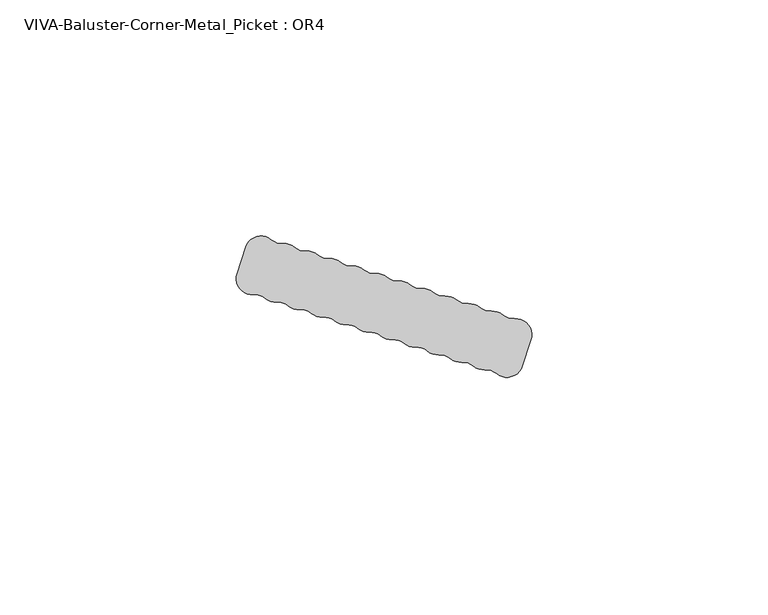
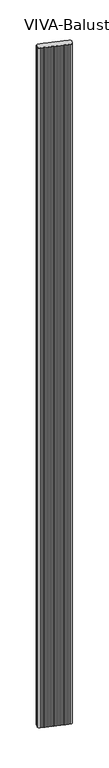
"""IFC4 building model written with IfcOpenShell, lengths in millimetres: railing geometry, VIVA-Baluster-Corner-Metal_Picket : OR4."""

from ifc_helpers import new_model, si_unit, frame, origin, place, context, project, spatial, polyline, circle_curve, source, transform, mapped, element, save
from ifc_brep_helpers import plane_surface, cylinder_surface, revolved_surface, advanced_brep


def viva_baluster_corner_metal_picket_or4_cd2baefe(model_context):
    return source(origin(), model_context, "Body", "AdvancedBrep", [
        advanced_brep(
        [(54.1877137, 58.5610945, 1219.2), (55.9877943, 64.1011728, 1219.2), (52.4796392, 68.5924811, 1219.2), (50.0317415, 69.3878513, 1219.2), (47.5838438, 70.1832215, 1219.2), (45.1359461, 70.9785917, 1219.2), (42.6880484, 71.7739618, 1219.2), (40.2401507, 72.569332, 1219.2), (37.792253, 73.3647022, 1219.2), (35.3443553, 74.1600724, 1219.2), (32.8964576, 74.9554425, 1219.2), (30.4485599, 75.7508127, 1219.2), (28.0006622, 76.5461829, 1219.2), (25.5527645, 77.3415531, 1219.2), (23.1048668, 78.1369232, 1219.2), (20.6569691, 78.9322934, 1219.2), (18.2090714, 79.7276636, 1219.2), (15.7611737, 80.5230338, 1219.2), (13.313276, 81.318404, 1219.2), (10.8653783, 82.1137741, 1219.2), (8.4174806, 82.9091443, 1219.2), (5.9695829, 83.7045145, 1219.2), (3.5216852, 84.4998847, 1219.2), (1.0737875, 85.2952548, 1219.2), (-4.4042945, 83.723752, 1219.2), (-6.204375, 78.1836736, 1219.2), (-2.6962199, 73.6923653, 1219.2), (-0.2483222, 72.8969952, 1219.2), (2.1995755, 72.101625, 1219.2), (4.6474732, 71.3062548, 1219.2), (7.0953709, 70.5108846, 1219.2), (9.5432686, 69.7155145, 1219.2), (11.9911663, 68.9201443, 1219.2), (14.439064, 68.1247741, 1219.2), (16.8869617, 67.3294039, 1219.2), (19.3348594, 66.5340337, 1219.2), (21.7827571, 65.7386636, 1219.2), (24.2306548, 64.9432934, 1219.2), (26.6785525, 64.1479232, 1219.2), (29.1264502, 63.352553, 1219.2), (31.5743479, 62.5571829, 1219.2), (34.0222456, 61.7618127, 1219.2), (36.4701433, 60.9664425, 1219.2), (38.918041, 60.1710723, 1219.2), (41.3659387, 59.3757022, 1219.2), (43.8138364, 58.580332, 1219.2), (46.2617341, 57.7849618, 1219.2), (48.7096318, 56.9895916, 1219.2), (54.1877137, 58.5610945, -245.8945017), (48.7096318, 56.9895916, -245.8945017), (46.2617341, 57.7849618, -245.8945017), (43.8138364, 58.580332, -245.8945017), (41.3659387, 59.3757022, -245.8945017), (38.918041, 60.1710723, -245.8945017), (36.4701433, 60.9664425, -245.8945017), (34.0222456, 61.7618127, -245.8945017), (31.5743479, 62.5571829, -245.8945017), (29.1264502, 63.352553, -245.8945017), (26.6785525, 64.1479232, -245.8945017), (24.2306548, 64.9432934, -245.8945017), (21.7827571, 65.7386636, -245.8945017), (19.3348594, 66.5340337, -245.8945017), (16.8869617, 67.3294039, -245.8945017), (14.439064, 68.1247741, -245.8945017), (11.9911663, 68.9201443, -245.8945017), (9.5432686, 69.7155145, -245.8945017), (7.0953709, 70.5108846, -245.8945017), (4.6474732, 71.3062548, -245.8945017), (2.1995755, 72.101625, -245.8945017), (-0.2483222, 72.8969952, -245.8945017), (-2.6962199, 73.6923653, -245.8945017), (-6.204375, 78.1836736, -245.8945017), (-4.4042945, 83.723752, -245.8945017), (1.0737875, 85.2952548, -245.8945017), (3.5216852, 84.4998847, -245.8945017), (5.9695829, 83.7045145, -245.8945017), (8.4174806, 82.9091443, -245.8945017), (10.8653783, 82.1137741, -245.8945017), (13.313276, 81.318404, -245.8945017), (15.7611737, 80.5230338, -245.8945017), (18.2090714, 79.7276636, -245.8945017), (20.6569691, 78.9322934, -245.8945017), (23.1048668, 78.1369232, -245.8945017), (25.5527645, 77.3415531, -245.8945017), (28.0006622, 76.5461829, -245.8945017), (30.4485599, 75.7508127, -245.8945017), (32.8964576, 74.9554425, -245.8945017), (35.3443553, 74.1600724, -245.8945017), (37.792253, 73.3647022, -245.8945017), (40.2401507, 72.569332, -245.8945017), (42.6880484, 71.7739618, -245.8945017), (45.1359461, 70.9785917, -245.8945017), (47.5838438, 70.1832215, -245.8945017), (50.0317415, 69.3878513, -245.8945017), (52.4796392, 68.5924811, -245.8945017), (55.9877943, 64.1011728, -245.8945017)],
        [
            (0, 1),
            (1, 2, circle_curve(frame((52.7186246, 65.1633905, 1219.2), z_axis=(0.0, 0.0, 1.0), x_axis=(1.0, 0.0, 0.0)), 3.4374084)),
            (2, 3, circle_curve(frame((52.2406537, 72.0215718, 1219.2), z_axis=(0.0, 0.0, -1.0), x_axis=(1.0, 0.0, 0.0)), 3.4374084)),
            (3, 4, circle_curve(frame((47.8228292, 66.7541308, 1219.2), z_axis=(0.0, 0.0, 1.0), x_axis=(1.0, 0.0, 0.0)), 3.4374084)),
            (4, 5, circle_curve(frame((47.3448583, 73.6123121, 1219.2), z_axis=(0.0, 0.0, -1.0), x_axis=(1.0, 0.0, 0.0)), 3.4374084)),
            (5, 6, circle_curve(frame((42.9270338, 68.3448712, 1219.2), z_axis=(0.0, 0.0, 1.0), x_axis=(1.0, 0.0, 0.0)), 3.4374084)),
            (6, 7, circle_curve(frame((42.4490629, 75.2030525, 1219.2), z_axis=(0.0, 0.0, -1.0), x_axis=(1.0, 0.0, 0.0)), 3.4374084)),
            (7, 8, circle_curve(frame((38.0312384, 69.9356115, 1219.2), z_axis=(0.0, 0.0, 1.0), x_axis=(1.0, 0.0, 0.0)), 3.4374084)),
            (8, 9, circle_curve(frame((37.5532675, 76.7937928, 1219.2), z_axis=(0.0, 0.0, -1.0), x_axis=(1.0, 0.0, 0.0)), 3.4374084)),
            (9, 10, circle_curve(frame((33.135443, 71.5263519, 1219.2), z_axis=(0.0, 0.0, 1.0), x_axis=(1.0, 0.0, 0.0)), 3.4374084)),
            (10, 11, circle_curve(frame((32.6574721, 78.3845332, 1219.2), z_axis=(0.0, 0.0, -1.0), x_axis=(1.0, 0.0, 0.0)), 3.4374084)),
            (11, 12, circle_curve(frame((28.2396476, 73.1170922, 1219.2), z_axis=(0.0, 0.0, 1.0), x_axis=(1.0, 0.0, 0.0)), 3.4374084)),
            (12, 13, circle_curve(frame((27.7616767, 79.9752735, 1219.2), z_axis=(0.0, 0.0, -1.0), x_axis=(1.0, 0.0, 0.0)), 3.4374084)),
            (13, 14, circle_curve(frame((23.3438522, 74.7078326, 1219.2), z_axis=(0.0, 0.0, 1.0), x_axis=(1.0, 0.0, 0.0)), 3.4374084)),
            (14, 15, circle_curve(frame((22.8658813, 81.5660139, 1219.2), z_axis=(0.0, 0.0, -1.0), x_axis=(1.0, 0.0, 0.0)), 3.4374084)),
            (15, 16, circle_curve(frame((18.4480568, 76.2985729, 1219.2), z_axis=(0.0, 0.0, 1.0), x_axis=(1.0, 0.0, 0.0)), 3.4374084)),
            (16, 17, circle_curve(frame((17.9700859, 83.1567542, 1219.2), z_axis=(0.0, 0.0, -1.0), x_axis=(1.0, 0.0, 0.0)), 3.4374084)),
            (17, 18, circle_curve(frame((13.5522614, 77.8893133, 1219.2), z_axis=(0.0, 0.0, 1.0), x_axis=(1.0, 0.0, 0.0)), 3.4374084)),
            (18, 19, circle_curve(frame((13.0742905, 84.7474946, 1219.2), z_axis=(0.0, 0.0, -1.0), x_axis=(1.0, 0.0, 0.0)), 3.4374084)),
            (19, 20, circle_curve(frame((8.656466, 79.4800537, 1219.2), z_axis=(0.0, 0.0, 1.0), x_axis=(1.0, 0.0, 0.0)), 3.4374084)),
            (20, 21, circle_curve(frame((8.1784951, 86.338235, 1219.2), z_axis=(0.0, 0.0, -1.0), x_axis=(1.0, 0.0, 0.0)), 3.4374084)),
            (21, 22, circle_curve(frame((3.7606706, 81.070794, 1219.2), z_axis=(0.0, 0.0, 1.0), x_axis=(1.0, 0.0, 0.0)), 3.4374084)),
            (22, 23, circle_curve(frame((3.2826997, 87.9289753, 1219.2), z_axis=(0.0, 0.0, -1.0), x_axis=(1.0, 0.0, 0.0)), 3.4374084)),
            (23, 24, circle_curve(frame((-1.1351248, 82.6615344, 1219.2), z_axis=(0.0, 0.0, 1.0), x_axis=(1.0, 0.0, 0.0)), 3.4374084)),
            (24, 25),
            (25, 26, circle_curve(frame((-2.9352053, 77.121456, 1219.2), z_axis=(0.0, 0.0, 1.0), x_axis=(1.0, 0.0, 0.0)), 3.4374084)),
            (26, 27, circle_curve(frame((-2.4572344, 70.2632747, 1219.2), z_axis=(0.0, 0.0, -1.0), x_axis=(1.0, 0.0, 0.0)), 3.4374084)),
            (27, 28, circle_curve(frame((1.9605901, 75.5307156, 1219.2), z_axis=(0.0, 0.0, 1.0), x_axis=(1.0, 0.0, 0.0)), 3.4374084)),
            (28, 29, circle_curve(frame((2.438561, 68.6725343, 1219.2), z_axis=(0.0, 0.0, -1.0), x_axis=(1.0, 0.0, 0.0)), 3.4374084)),
            (29, 30, circle_curve(frame((6.8563855, 73.9399753, 1219.2), z_axis=(0.0, 0.0, 1.0), x_axis=(1.0, 0.0, 0.0)), 3.4374084)),
            (30, 31, circle_curve(frame((7.3343564, 67.081794, 1219.2), z_axis=(0.0, 0.0, -1.0), x_axis=(1.0, 0.0, 0.0)), 3.4374084)),
            (31, 32, circle_curve(frame((11.7521809, 72.3492349, 1219.2), z_axis=(0.0, 0.0, 1.0), x_axis=(1.0, 0.0, 0.0)), 3.4374084)),
            (32, 33, circle_curve(frame((12.2301518, 65.4910536, 1219.2), z_axis=(0.0, 0.0, -1.0), x_axis=(1.0, 0.0, 0.0)), 3.4374084)),
            (33, 34, circle_curve(frame((16.6479763, 70.7584946, 1219.2), z_axis=(0.0, 0.0, 1.0), x_axis=(1.0, 0.0, 0.0)), 3.4374084)),
            (34, 35, circle_curve(frame((17.1259472, 63.9003133, 1219.2), z_axis=(0.0, 0.0, -1.0), x_axis=(1.0, 0.0, 0.0)), 3.4374084)),
            (35, 36, circle_curve(frame((21.5437717, 69.1677542, 1219.2), z_axis=(0.0, 0.0, 1.0), x_axis=(1.0, 0.0, 0.0)), 3.4374084)),
            (36, 37, circle_curve(frame((22.0217426, 62.3095729, 1219.2), z_axis=(0.0, 0.0, -1.0), x_axis=(1.0, 0.0, 0.0)), 3.4374084)),
            (37, 38, circle_curve(frame((26.4395671, 67.5770139, 1219.2), z_axis=(0.0, 0.0, 1.0), x_axis=(1.0, 0.0, 0.0)), 3.4374084)),
            (38, 39, circle_curve(frame((26.917538, 60.7188326, 1219.2), z_axis=(0.0, 0.0, -1.0), x_axis=(1.0, 0.0, 0.0)), 3.4374084)),
            (39, 40, circle_curve(frame((31.3353625, 65.9862735, 1219.2), z_axis=(0.0, 0.0, 1.0), x_axis=(1.0, 0.0, 0.0)), 3.4374084)),
            (40, 41, circle_curve(frame((31.8133334, 59.1280922, 1219.2), z_axis=(0.0, 0.0, -1.0), x_axis=(1.0, 0.0, 0.0)), 3.4374084)),
            (41, 42, circle_curve(frame((36.2311579, 64.3955332, 1219.2), z_axis=(0.0, 0.0, 1.0), x_axis=(1.0, 0.0, 0.0)), 3.4374084)),
            (42, 43, circle_curve(frame((36.7091288, 57.5373519, 1219.2), z_axis=(0.0, 0.0, -1.0), x_axis=(1.0, 0.0, 0.0)), 3.4374084)),
            (43, 44, circle_curve(frame((41.1269533, 62.8047928, 1219.2), z_axis=(0.0, 0.0, 1.0), x_axis=(1.0, 0.0, 0.0)), 3.4374084)),
            (44, 45, circle_curve(frame((41.6049242, 55.9466115, 1219.2), z_axis=(0.0, 0.0, -1.0), x_axis=(1.0, 0.0, 0.0)), 3.4374084)),
            (45, 46, circle_curve(frame((46.0227487, 61.2140524, 1219.2), z_axis=(0.0, 0.0, 1.0), x_axis=(1.0, 0.0, 0.0)), 3.4374084)),
            (46, 47, circle_curve(frame((46.5007196, 54.3558711, 1219.2), z_axis=(0.0, 0.0, -1.0), x_axis=(1.0, 0.0, 0.0)), 3.4374084)),
            (47, 0, circle_curve(frame((50.9185441, 59.6233121, 1219.2), z_axis=(0.0, 0.0, 1.0), x_axis=(1.0, 0.0, 0.0)), 3.4374084)),
            (48, 49, circle_curve(frame((50.9185441, 59.6233121, -245.8945017), z_axis=(0.0, 0.0, -1.0), x_axis=(1.0, 0.0, 0.0)), 3.4374084)),
            (49, 50, circle_curve(frame((46.5007196, 54.3558711, -245.8945017), z_axis=(0.0, 0.0, 1.0), x_axis=(1.0, 0.0, 0.0)), 3.4374084)),
            (50, 51, circle_curve(frame((46.0227487, 61.2140524, -245.8945017), z_axis=(0.0, 0.0, -1.0), x_axis=(1.0, 0.0, 0.0)), 3.4374084)),
            (51, 52, circle_curve(frame((41.6049242, 55.9466115, -245.8945017), z_axis=(0.0, 0.0, 1.0), x_axis=(1.0, 0.0, 0.0)), 3.4374084)),
            (52, 53, circle_curve(frame((41.1269533, 62.8047928, -245.8945017), z_axis=(0.0, 0.0, -1.0), x_axis=(1.0, 0.0, 0.0)), 3.4374084)),
            (53, 54, circle_curve(frame((36.7091288, 57.5373519, -245.8945017), z_axis=(0.0, 0.0, 1.0), x_axis=(1.0, 0.0, 0.0)), 3.4374084)),
            (54, 55, circle_curve(frame((36.2311579, 64.3955332, -245.8945017), z_axis=(0.0, 0.0, -1.0), x_axis=(1.0, 0.0, 0.0)), 3.4374084)),
            (55, 56, circle_curve(frame((31.8133334, 59.1280922, -245.8945017), z_axis=(0.0, 0.0, 1.0), x_axis=(1.0, 0.0, 0.0)), 3.4374084)),
            (56, 57, circle_curve(frame((31.3353625, 65.9862735, -245.8945017), z_axis=(0.0, 0.0, -1.0), x_axis=(1.0, 0.0, 0.0)), 3.4374084)),
            (57, 58, circle_curve(frame((26.917538, 60.7188326, -245.8945017), z_axis=(0.0, 0.0, 1.0), x_axis=(1.0, 0.0, 0.0)), 3.4374084)),
            (58, 59, circle_curve(frame((26.4395671, 67.5770139, -245.8945017), z_axis=(0.0, 0.0, -1.0), x_axis=(1.0, 0.0, 0.0)), 3.4374084)),
            (59, 60, circle_curve(frame((22.0217426, 62.3095729, -245.8945017), z_axis=(0.0, 0.0, 1.0), x_axis=(1.0, 0.0, 0.0)), 3.4374084)),
            (60, 61, circle_curve(frame((21.5437717, 69.1677542, -245.8945017), z_axis=(0.0, 0.0, -1.0), x_axis=(1.0, 0.0, 0.0)), 3.4374084)),
            (61, 62, circle_curve(frame((17.1259472, 63.9003133, -245.8945017), z_axis=(0.0, 0.0, 1.0), x_axis=(1.0, 0.0, 0.0)), 3.4374084)),
            (62, 63, circle_curve(frame((16.6479763, 70.7584946, -245.8945017), z_axis=(0.0, 0.0, -1.0), x_axis=(1.0, 0.0, 0.0)), 3.4374084)),
            (63, 64, circle_curve(frame((12.2301518, 65.4910536, -245.8945017), z_axis=(0.0, 0.0, 1.0), x_axis=(1.0, 0.0, 0.0)), 3.4374084)),
            (64, 65, circle_curve(frame((11.7521809, 72.3492349, -245.8945017), z_axis=(0.0, 0.0, -1.0), x_axis=(1.0, 0.0, 0.0)), 3.4374084)),
            (65, 66, circle_curve(frame((7.3343564, 67.081794, -245.8945017), z_axis=(0.0, 0.0, 1.0), x_axis=(1.0, 0.0, 0.0)), 3.4374084)),
            (66, 67, circle_curve(frame((6.8563855, 73.9399753, -245.8945017), z_axis=(0.0, 0.0, -1.0), x_axis=(1.0, 0.0, 0.0)), 3.4374084)),
            (67, 68, circle_curve(frame((2.438561, 68.6725343, -245.8945017), z_axis=(0.0, 0.0, 1.0), x_axis=(1.0, 0.0, 0.0)), 3.4374084)),
            (68, 69, circle_curve(frame((1.9605901, 75.5307156, -245.8945017), z_axis=(0.0, 0.0, -1.0), x_axis=(1.0, 0.0, 0.0)), 3.4374084)),
            (69, 70, circle_curve(frame((-2.4572344, 70.2632747, -245.8945017), z_axis=(0.0, 0.0, 1.0), x_axis=(1.0, 0.0, 0.0)), 3.4374084)),
            (70, 71, circle_curve(frame((-2.9352053, 77.121456, -245.8945017), z_axis=(0.0, 0.0, -1.0), x_axis=(1.0, 0.0, 0.0)), 3.4374084)),
            (71, 72),
            (72, 73, circle_curve(frame((-1.1351248, 82.6615344, -245.8945017), z_axis=(0.0, 0.0, -1.0), x_axis=(1.0, 0.0, 0.0)), 3.4374084)),
            (73, 74, circle_curve(frame((3.2826997, 87.9289753, -245.8945017), z_axis=(0.0, 0.0, 1.0), x_axis=(1.0, 0.0, 0.0)), 3.4374084)),
            (74, 75, circle_curve(frame((3.7606706, 81.070794, -245.8945017), z_axis=(0.0, 0.0, -1.0), x_axis=(1.0, 0.0, 0.0)), 3.4374084)),
            (75, 76, circle_curve(frame((8.1784951, 86.338235, -245.8945017), z_axis=(0.0, 0.0, 1.0), x_axis=(1.0, 0.0, 0.0)), 3.4374084)),
            (76, 77, circle_curve(frame((8.656466, 79.4800537, -245.8945017), z_axis=(0.0, 0.0, -1.0), x_axis=(1.0, 0.0, 0.0)), 3.4374084)),
            (77, 78, circle_curve(frame((13.0742905, 84.7474946, -245.8945017), z_axis=(0.0, 0.0, 1.0), x_axis=(1.0, 0.0, 0.0)), 3.4374084)),
            (78, 79, circle_curve(frame((13.5522614, 77.8893133, -245.8945017), z_axis=(0.0, 0.0, -1.0), x_axis=(1.0, 0.0, 0.0)), 3.4374084)),
            (79, 80, circle_curve(frame((17.9700859, 83.1567542, -245.8945017), z_axis=(0.0, 0.0, 1.0), x_axis=(1.0, 0.0, 0.0)), 3.4374084)),
            (80, 81, circle_curve(frame((18.4480568, 76.2985729, -245.8945017), z_axis=(0.0, 0.0, -1.0), x_axis=(1.0, 0.0, 0.0)), 3.4374084)),
            (81, 82, circle_curve(frame((22.8658813, 81.5660139, -245.8945017), z_axis=(0.0, 0.0, 1.0), x_axis=(1.0, 0.0, 0.0)), 3.4374084)),
            (82, 83, circle_curve(frame((23.3438522, 74.7078326, -245.8945017), z_axis=(0.0, 0.0, -1.0), x_axis=(1.0, 0.0, 0.0)), 3.4374084)),
            (83, 84, circle_curve(frame((27.7616767, 79.9752735, -245.8945017), z_axis=(0.0, 0.0, 1.0), x_axis=(1.0, 0.0, 0.0)), 3.4374084)),
            (84, 85, circle_curve(frame((28.2396476, 73.1170922, -245.8945017), z_axis=(0.0, 0.0, -1.0), x_axis=(1.0, 0.0, 0.0)), 3.4374084)),
            (85, 86, circle_curve(frame((32.6574721, 78.3845332, -245.8945017), z_axis=(0.0, 0.0, 1.0), x_axis=(1.0, 0.0, 0.0)), 3.4374084)),
            (86, 87, circle_curve(frame((33.135443, 71.5263519, -245.8945017), z_axis=(0.0, 0.0, -1.0), x_axis=(1.0, 0.0, 0.0)), 3.4374084)),
            (87, 88, circle_curve(frame((37.5532675, 76.7937928, -245.8945017), z_axis=(0.0, 0.0, 1.0), x_axis=(1.0, 0.0, 0.0)), 3.4374084)),
            (88, 89, circle_curve(frame((38.0312384, 69.9356115, -245.8945017), z_axis=(0.0, 0.0, -1.0), x_axis=(1.0, 0.0, 0.0)), 3.4374084)),
            (89, 90, circle_curve(frame((42.4490629, 75.2030525, -245.8945017), z_axis=(0.0, 0.0, 1.0), x_axis=(1.0, 0.0, 0.0)), 3.4374084)),
            (90, 91, circle_curve(frame((42.9270338, 68.3448712, -245.8945017), z_axis=(0.0, 0.0, -1.0), x_axis=(1.0, 0.0, 0.0)), 3.4374084)),
            (91, 92, circle_curve(frame((47.3448583, 73.6123121, -245.8945017), z_axis=(0.0, 0.0, 1.0), x_axis=(1.0, 0.0, 0.0)), 3.4374084)),
            (92, 93, circle_curve(frame((47.8228292, 66.7541308, -245.8945017), z_axis=(0.0, 0.0, -1.0), x_axis=(1.0, 0.0, 0.0)), 3.4374084)),
            (93, 94, circle_curve(frame((52.2406537, 72.0215718, -245.8945017), z_axis=(0.0, 0.0, 1.0), x_axis=(1.0, 0.0, 0.0)), 3.4374084)),
            (94, 95, circle_curve(frame((52.7186246, 65.1633905, -245.8945017), z_axis=(0.0, 0.0, -1.0), x_axis=(1.0, 0.0, 0.0)), 3.4374084)),
            (95, 48),
            (0, 48),
            (95, 1),
            (94, 2),
            (93, 3),
            (92, 4),
            (91, 5),
            (90, 6),
            (89, 7),
            (88, 8),
            (87, 9),
            (86, 10),
            (85, 11),
            (84, 12),
            (83, 13),
            (82, 14),
            (81, 15),
            (80, 16),
            (79, 17),
            (78, 18),
            (77, 19),
            (76, 20),
            (75, 21),
            (74, 22),
            (73, 23),
            (72, 24),
            (71, 25),
            (70, 26),
            (69, 27),
            (68, 28),
            (67, 29),
            (66, 30),
            (65, 31),
            (64, 32),
            (63, 33),
            (62, 34),
            (61, 35),
            (60, 36),
            (59, 37),
            (58, 38),
            (57, 39),
            (56, 40),
            (55, 41),
            (54, 42),
            (53, 43),
            (52, 44),
            (51, 45),
            (50, 46),
            (49, 47),
        ],
        [
            plane_surface(frame((55.9877943, 64.1011728, 1219.2), z_axis=(0.0, 0.0, 1.0000000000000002), x_axis=(0.309016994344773, 0.9510565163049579, 0.0))),
            plane_surface(frame((55.9877943, 64.1011728, -245.8945017), z_axis=(0.0, 0.0, -1.0000000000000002), x_axis=(-0.309016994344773, -0.9510565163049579, 0.0))),
            plane_surface(frame((54.1877137, 58.5610945, 1219.2), z_axis=(0.9510565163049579, -0.309016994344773, 0.0), x_axis=(0.0, 0.0, -1.0))),
            cylinder_surface(frame((52.7186246, 65.1633905, -245.8945017), z_axis=(0.0, 0.0, 1.0), x_axis=(1.0, 0.0, 0.0)), 3.4374084),
            revolved_surface(polyline([(55.678062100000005, 72.0215718, -245.8945017), (55.678062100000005, 72.0215718, 1219.2)]), (52.2406537, 72.0215718, -245.8945017), (0.0, 0.0, -1.0)),
            cylinder_surface(frame((47.8228292, 66.7541308, -245.8945017), z_axis=(0.0, 0.0, 1.0), x_axis=(1.0, 0.0, 0.0)), 3.4374084),
            revolved_surface(polyline([(50.7822667, 73.6123121, -245.8945017), (50.7822667, 73.6123121, 1219.2)]), (47.3448583, 73.6123121, -245.8945017), (0.0, 0.0, -1.0)),
            cylinder_surface(frame((42.9270338, 68.3448712, -245.8945017), z_axis=(0.0, 0.0, 1.0), x_axis=(1.0, 0.0, 0.0)), 3.4374084),
            revolved_surface(polyline([(45.886471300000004, 75.2030525, -245.8945017), (45.886471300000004, 75.2030525, 1219.2)]), (42.4490629, 75.2030525, -245.8945017), (0.0, 0.0, -1.0)),
            cylinder_surface(frame((38.0312384, 69.9356115, -245.8945017), z_axis=(0.0, 0.0, 1.0), x_axis=(1.0, 0.0, 0.0)), 3.4374084),
            revolved_surface(polyline([(40.9906759, 76.7937928, -245.8945017), (40.9906759, 76.7937928, 1219.2)]), (37.5532675, 76.7937928, -245.8945017), (0.0, 0.0, -1.0)),
            cylinder_surface(frame((33.135443, 71.5263519, -245.8945017), z_axis=(0.0, 0.0, 1.0), x_axis=(1.0, 0.0, 0.0)), 3.4374084),
            revolved_surface(polyline([(36.0948805, 78.3845332, -245.8945017), (36.0948805, 78.3845332, 1219.2)]), (32.6574721, 78.3845332, -245.8945017), (0.0, 0.0, -1.0)),
            cylinder_surface(frame((28.2396476, 73.1170922, -245.8945017), z_axis=(0.0, 0.0, 1.0), x_axis=(1.0, 0.0, 0.0)), 3.4374084),
            revolved_surface(polyline([(31.199085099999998, 79.9752735, -245.8945017), (31.199085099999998, 79.9752735, 1219.2)]), (27.7616767, 79.9752735, -245.8945017), (0.0, 0.0, -1.0)),
            cylinder_surface(frame((23.3438522, 74.7078326, -245.8945017), z_axis=(0.0, 0.0, 1.0), x_axis=(1.0, 0.0, 0.0)), 3.4374084),
            revolved_surface(polyline([(26.3032897, 81.5660139, -245.8945017), (26.3032897, 81.5660139, 1219.2)]), (22.8658813, 81.5660139, -245.8945017), (0.0, 0.0, -1.0)),
            cylinder_surface(frame((18.4480568, 76.2985729, -245.8945017), z_axis=(0.0, 0.0, 1.0), x_axis=(1.0, 0.0, 0.0)), 3.4374084),
            revolved_surface(polyline([(21.4074943, 83.1567542, -245.8945017), (21.4074943, 83.1567542, 1219.2)]), (17.9700859, 83.1567542, -245.8945017), (0.0, 0.0, -1.0)),
            cylinder_surface(frame((13.5522614, 77.8893133, -245.8945017), z_axis=(0.0, 0.0, 1.0), x_axis=(1.0, 0.0, 0.0)), 3.4374084),
            revolved_surface(polyline([(16.5116989, 84.7474946, -245.8945017), (16.5116989, 84.7474946, 1219.2)]), (13.0742905, 84.7474946, -245.8945017), (0.0, 0.0, -1.0)),
            cylinder_surface(frame((8.656466, 79.4800537, -245.8945017), z_axis=(0.0, 0.0, 1.0), x_axis=(1.0, 0.0, 0.0)), 3.4374084),
            revolved_surface(polyline([(11.615903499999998, 86.338235, -245.8945017), (11.615903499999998, 86.338235, 1219.2)]), (8.1784951, 86.338235, -245.8945017), (0.0, 0.0, -1.0)),
            cylinder_surface(frame((3.7606706, 81.070794, -245.8945017), z_axis=(0.0, 0.0, 1.0), x_axis=(1.0, 0.0, 0.0)), 3.4374084),
            revolved_surface(polyline([(6.7201081, 87.9289753, -245.8945017), (6.7201081, 87.9289753, 1219.2)]), (3.2826997, 87.9289753, -245.8945017), (0.0, 0.0, -1.0)),
            cylinder_surface(frame((-1.1351248, 82.6615344, -245.8945017), z_axis=(0.0, 0.0, 1.0), x_axis=(1.0, 0.0, 0.0)), 3.4374084),
            plane_surface(frame((-4.4042945, 83.723752, 1219.2), z_axis=(-0.9510565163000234, 0.3090169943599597, 0.0), x_axis=(0.0, 0.0, -1.0))),
            cylinder_surface(frame((-2.9352053, 77.121456, -245.8945017), z_axis=(0.0, 0.0, 1.0), x_axis=(1.0, 0.0, 0.0)), 3.4374084),
            revolved_surface(polyline([(0.9801739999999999, 70.2632747, -245.8945017), (0.9801739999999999, 70.2632747, 1219.2)]), (-2.4572344, 70.2632747, -245.8945017), (0.0, 0.0, -1.0)),
            cylinder_surface(frame((1.9605901, 75.5307156, -245.8945017), z_axis=(0.0, 0.0, 1.0), x_axis=(1.0, 0.0, 0.0)), 3.4374084),
            revolved_surface(polyline([(5.8759694, 68.6725343, -245.8945017), (5.8759694, 68.6725343, 1219.2)]), (2.438561, 68.6725343, -245.8945017), (0.0, 0.0, -1.0)),
            cylinder_surface(frame((6.8563855, 73.9399753, -245.8945017), z_axis=(0.0, 0.0, 1.0), x_axis=(1.0, 0.0, 0.0)), 3.4374084),
            revolved_surface(polyline([(10.7717648, 67.081794, -245.8945017), (10.7717648, 67.081794, 1219.2)]), (7.3343564, 67.081794, -245.8945017), (0.0, 0.0, -1.0)),
            cylinder_surface(frame((11.7521809, 72.3492349, -245.8945017), z_axis=(0.0, 0.0, 1.0), x_axis=(1.0, 0.0, 0.0)), 3.4374084),
            revolved_surface(polyline([(15.6675602, 65.4910536, -245.8945017), (15.6675602, 65.4910536, 1219.2)]), (12.2301518, 65.4910536, -245.8945017), (0.0, 0.0, -1.0)),
            cylinder_surface(frame((16.6479763, 70.7584946, -245.8945017), z_axis=(0.0, 0.0, 1.0), x_axis=(1.0, 0.0, 0.0)), 3.4374084),
            revolved_surface(polyline([(20.563355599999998, 63.9003133, -245.8945017), (20.563355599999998, 63.9003133, 1219.2)]), (17.1259472, 63.9003133, -245.8945017), (0.0, 0.0, -1.0)),
            cylinder_surface(frame((21.5437717, 69.1677542, -245.8945017), z_axis=(0.0, 0.0, 1.0), x_axis=(1.0, 0.0, 0.0)), 3.4374084),
            revolved_surface(polyline([(25.459151, 62.3095729, -245.8945017), (25.459151, 62.3095729, 1219.2)]), (22.0217426, 62.3095729, -245.8945017), (0.0, 0.0, -1.0)),
            cylinder_surface(frame((26.4395671, 67.5770139, -245.8945017), z_axis=(0.0, 0.0, 1.0), x_axis=(1.0, 0.0, 0.0)), 3.4374084),
            revolved_surface(polyline([(30.3549464, 60.7188326, -245.8945017), (30.3549464, 60.7188326, 1219.2)]), (26.917538, 60.7188326, -245.8945017), (0.0, 0.0, -1.0)),
            cylinder_surface(frame((31.3353625, 65.9862735, -245.8945017), z_axis=(0.0, 0.0, 1.0), x_axis=(1.0, 0.0, 0.0)), 3.4374084),
            revolved_surface(polyline([(35.2507418, 59.1280922, -245.8945017), (35.2507418, 59.1280922, 1219.2)]), (31.8133334, 59.1280922, -245.8945017), (0.0, 0.0, -1.0)),
            cylinder_surface(frame((36.2311579, 64.3955332, -245.8945017), z_axis=(0.0, 0.0, 1.0), x_axis=(1.0, 0.0, 0.0)), 3.4374084),
            revolved_surface(polyline([(40.146537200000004, 57.5373519, -245.8945017), (40.146537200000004, 57.5373519, 1219.2)]), (36.7091288, 57.5373519, -245.8945017), (0.0, 0.0, -1.0)),
            cylinder_surface(frame((41.1269533, 62.8047928, -245.8945017), z_axis=(0.0, 0.0, 1.0), x_axis=(1.0, 0.0, 0.0)), 3.4374084),
            revolved_surface(polyline([(45.0423326, 55.9466115, -245.8945017), (45.0423326, 55.9466115, 1219.2)]), (41.6049242, 55.9466115, -245.8945017), (0.0, 0.0, -1.0)),
            cylinder_surface(frame((46.0227487, 61.2140524, -245.8945017), z_axis=(0.0, 0.0, 1.0), x_axis=(1.0, 0.0, 0.0)), 3.4374084),
            revolved_surface(polyline([(49.938128, 54.3558711, -245.8945017), (49.938128, 54.3558711, 1219.2)]), (46.5007196, 54.3558711, -245.8945017), (0.0, 0.0, -1.0)),
            cylinder_surface(frame((50.9185441, 59.6233121, -245.8945017), z_axis=(0.0, 0.0, 1.0), x_axis=(1.0, 0.0, 0.0)), 3.4374084),
        ],
        [
            (0, [[1, 2, 3, 4, 5, 6, 7, 8, 9, 10, 11, 12, 13, 14, 15, 16, 17, 18, 19, 20, 21, 22, 23, 24, 25, 26, 27, 28, 29, 30, 31, 32, 33, 34, 35, 36, 37, 38, 39, 40, 41, 42, 43, 44, 45, 46, 47, 48]]),
            (1, [[49, 50, 51, 52, 53, 54, 55, 56, 57, 58, 59, 60, 61, 62, 63, 64, 65, 66, 67, 68, 69, 70, 71, 72, 73, 74, 75, 76, 77, 78, 79, 80, 81, 82, 83, 84, 85, 86, 87, 88, 89, 90, 91, 92, 93, 94, 95, 96]]),
            (2, [[-1, 97, -96, 98]]),
            (3, [[-2, -98, -95, 99]]),
            (4, [[-3, -99, -94, 100]]),
            (5, [[-4, -100, -93, 101]]),
            (6, [[-5, -101, -92, 102]]),
            (7, [[-6, -102, -91, 103]]),
            (8, [[-7, -103, -90, 104]]),
            (9, [[-8, -104, -89, 105]]),
            (10, [[-9, -105, -88, 106]]),
            (11, [[-10, -106, -87, 107]]),
            (12, [[-11, -107, -86, 108]]),
            (13, [[-12, -108, -85, 109]]),
            (14, [[-13, -109, -84, 110]]),
            (15, [[-14, -110, -83, 111]]),
            (16, [[-15, -111, -82, 112]]),
            (17, [[-16, -112, -81, 113]]),
            (18, [[-17, -113, -80, 114]]),
            (19, [[-18, -114, -79, 115]]),
            (20, [[-19, -115, -78, 116]]),
            (21, [[-20, -116, -77, 117]]),
            (22, [[-21, -117, -76, 118]]),
            (23, [[-22, -118, -75, 119]]),
            (24, [[-23, -119, -74, 120]]),
            (25, [[-24, -120, -73, 121]]),
            (26, [[-25, -121, -72, 122]]),
            (27, [[-26, -122, -71, 123]]),
            (28, [[-27, -123, -70, 124]]),
            (29, [[-28, -124, -69, 125]]),
            (30, [[-29, -125, -68, 126]]),
            (31, [[-30, -126, -67, 127]]),
            (32, [[-31, -127, -66, 128]]),
            (33, [[-32, -128, -65, 129]]),
            (34, [[-33, -129, -64, 130]]),
            (35, [[-34, -130, -63, 131]]),
            (36, [[-35, -131, -62, 132]]),
            (37, [[-36, -132, -61, 133]]),
            (38, [[-37, -133, -60, 134]]),
            (39, [[-38, -134, -59, 135]]),
            (40, [[-39, -135, -58, 136]]),
            (41, [[-40, -136, -57, 137]]),
            (42, [[-41, -137, -56, 138]]),
            (43, [[-42, -138, -55, 139]]),
            (44, [[-43, -139, -54, 140]]),
            (45, [[-44, -140, -53, 141]]),
            (46, [[-45, -141, -52, 142]]),
            (47, [[-46, -142, -51, 143]]),
            (48, [[-47, -143, -50, 144]]),
            (49, [[-48, -144, -49, -97]]),
        ],
    ),
    ])


if __name__ == "__main__":
    model = new_model("IFC4")
    model_context = context("Model", 3, world=origin())
    ifc_project = project(units=[si_unit("LENGTHUNIT", "METRE", prefix="MILLI")], contexts=[model_context])
    site = spatial("IfcSite", under=ifc_project)
    building = spatial("IfcBuilding", under=site)
    placement = place(None, origin())
    viva_baluster_corner_metal_picket_or4_shape = viva_baluster_corner_metal_picket_or4_cd2baefe(model_context)
    element("IfcRailing", 1, ObjectType="VIVA-Baluster-Corner-Metal_Picket : OR4", at=placement, inside=building, context=model_context, shape_type="MappedRepresentation", body=[
        mapped(viva_baluster_corner_metal_picket_or4_shape, transform((0.0, 0.0, 0.0), x_axis=(1.0, 0.0, 0.0), y_axis=(0.0, 1.0, 0.0), z_axis=(0.0, 0.0, 1.0))),
    ])
    save(model, "model.ifc")
